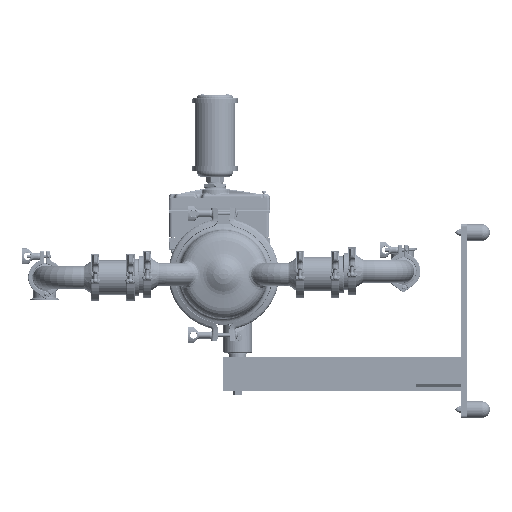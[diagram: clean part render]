
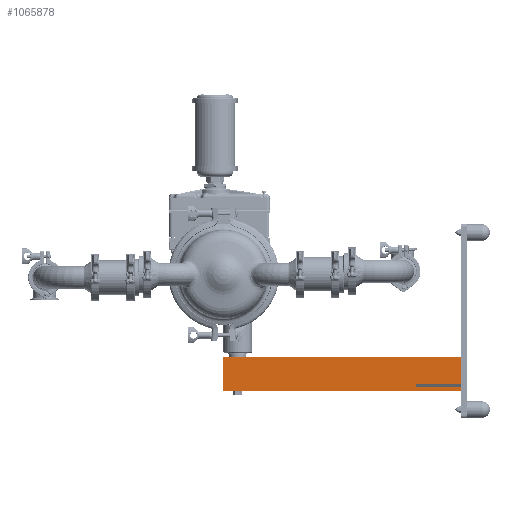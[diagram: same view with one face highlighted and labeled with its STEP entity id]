
A CAD part, left-side view. The second image highlights one B-rep face of the part: STEP entity #1065878.
In plain terms, the highlighted planar face has unit normal (-1, 0, 0).
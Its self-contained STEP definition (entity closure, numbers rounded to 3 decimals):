
#1057115=DIRECTION('',(0.,0.,-1.));
#1057116=VECTOR('',#1057115,2.39);
#1057117=CARTESIAN_POINT('',(-1.,-20.822,-7.236));
#1057118=LINE('',#1057117,#1057116);
#1057147=DIRECTION('',(0.,0.,-1.));
#1057148=VECTOR('',#1057147,0.36);
#1057149=CARTESIAN_POINT('',(-1.,-20.822,-9.876));
#1057150=LINE('',#1057149,#1057148);
#1057683=DIRECTION('',(0.,1.,0.));
#1057684=VECTOR('',#1057683,20.915);
#1057685=CARTESIAN_POINT('',(-1.,-20.822,-10.236));
#1057686=LINE('',#1057685,#1057684);
#1057687=DIRECTION('',(0.,1.,0.));
#1057688=VECTOR('',#1057687,4.);
#1057689=CARTESIAN_POINT('',(-1.,-20.822,-9.626));
#1057690=LINE('',#1057689,#1057688);
#1057691=DIRECTION('',(0.,0.,-1.));
#1057692=VECTOR('',#1057691,0.25);
#1057693=CARTESIAN_POINT('',(-1.,-16.822,-9.626));
#1057694=LINE('',#1057693,#1057692);
#1057695=DIRECTION('',(0.,1.,0.));
#1057696=VECTOR('',#1057695,4.);
#1057697=CARTESIAN_POINT('',(-1.,-20.822,-9.876));
#1057698=LINE('',#1057697,#1057696);
#1058293=DIRECTION('',(0.,1.,0.));
#1058294=VECTOR('',#1058293,20.915);
#1058295=CARTESIAN_POINT('',(-1.,-20.822,-7.236));
#1058296=LINE('',#1058295,#1058294);
#1058883=DIRECTION('',(0.,0.,1.));
#1058884=VECTOR('',#1058883,3.);
#1058885=CARTESIAN_POINT('',(-1.,0.093,-10.236));
#1058886=LINE('',#1058885,#1058884);
#1064688=CARTESIAN_POINT('',(-1.,-20.822,-10.236));
#1064690=VERTEX_POINT('',#1064688);
#1064693=CARTESIAN_POINT('',(-1.,-20.822,-7.236));
#1064695=VERTEX_POINT('',#1064693);
#1064716=CARTESIAN_POINT('',(-1.,-20.822,-9.626));
#1064718=VERTEX_POINT('',#1064716);
#1064720=CARTESIAN_POINT('',(-1.,-20.822,-9.876));
#1064722=VERTEX_POINT('',#1064720);
#1064724=CARTESIAN_POINT('',(-1.,-16.822,-9.626));
#1064725=VERTEX_POINT('',#1064724);
#1064726=CARTESIAN_POINT('',(-1.,-16.822,-9.876));
#1064727=VERTEX_POINT('',#1064726);
#1064729=CARTESIAN_POINT('',(-1.,0.093,-10.236));
#1064731=VERTEX_POINT('',#1064729);
#1064732=CARTESIAN_POINT('',(-1.,0.093,-7.236));
#1064733=VERTEX_POINT('',#1064732);
#1065860=CARTESIAN_POINT('',(-1.,-0.157,-7.236));
#1065861=DIRECTION('',(-1.,0.,0.));
#1065862=DIRECTION('',(0.,0.,-1.));
#1065863=AXIS2_PLACEMENT_3D('',#1065860,#1065861,#1065862);
#1065864=PLANE('',#1065863);
#1065866=ORIENTED_EDGE('',*,*,#1065865,.T.);
#1065868=ORIENTED_EDGE('',*,*,#1065867,.T.);
#1065870=ORIENTED_EDGE('',*,*,#1065869,.F.);
#1065871=ORIENTED_EDGE('',*,*,#1065137,.T.);
#1065872=ORIENTED_EDGE('',*,*,#1065829,.T.);
#1065873=ORIENTED_EDGE('',*,*,#1065842,.T.);
#1065874=ORIENTED_EDGE('',*,*,#1065854,.F.);
#1065875=ORIENTED_EDGE('',*,*,#1065153,.T.);
#1065876=EDGE_LOOP('',(#1065866,#1065868,#1065870,#1065871,#1065872,#1065873,
#1065874,#1065875));
#1065877=FACE_OUTER_BOUND('',#1065876,.F.);
#1065878=ADVANCED_FACE('',(#1065877),#1065864,.T.);
#1065137=EDGE_CURVE('',#1064695,#1064718,#1057118,.T.);
#1065153=EDGE_CURVE('',#1064722,#1064690,#1057150,.T.);
#1065829=EDGE_CURVE('',#1064718,#1064725,#1057690,.T.);
#1065842=EDGE_CURVE('',#1064725,#1064727,#1057694,.T.);
#1065854=EDGE_CURVE('',#1064722,#1064727,#1057698,.T.);
#1065865=EDGE_CURVE('',#1064690,#1064731,#1057686,.T.);
#1065867=EDGE_CURVE('',#1064731,#1064733,#1058886,.T.);
#1065869=EDGE_CURVE('',#1064695,#1064733,#1058296,.T.);
